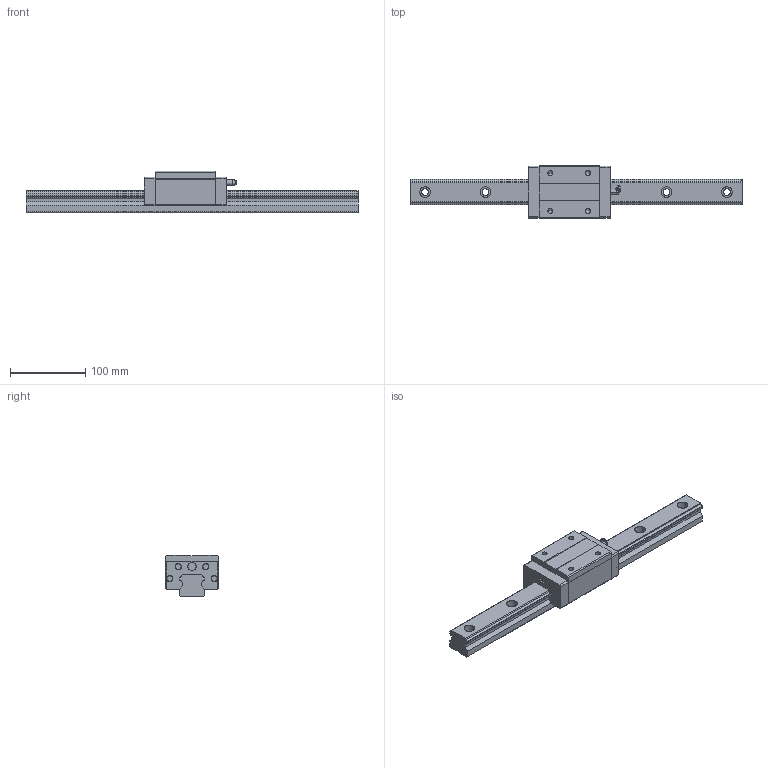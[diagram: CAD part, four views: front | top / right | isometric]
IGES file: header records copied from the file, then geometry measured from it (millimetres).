
Global section: file name: No Iges File Name specified; native system: AutoDesk Inventor R10; preprocessor: AutoDesk Inventor Iges Exporter R10; author: No Author specified; organization: No Organization specified; date: 20101222.163450; units: millimetre
Bounding box: 440 x 70 x 55 mm (x, y, z)
Surface area: 100575.6 mm2 (no closed solid volume)
Topology: 0 solids, 0 shells, 218 faces, 1429 edges, 1409 vertices
Faces by surface type: bspline 218
